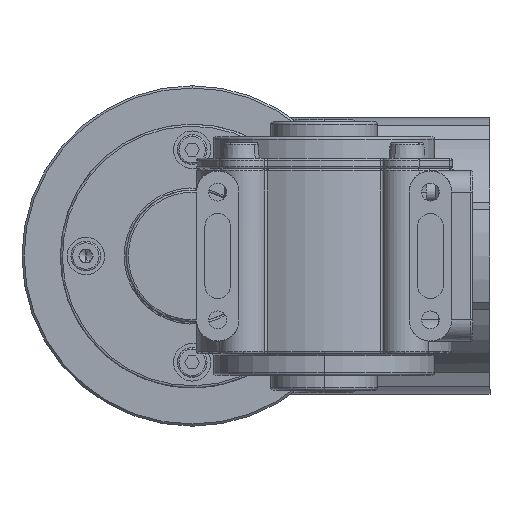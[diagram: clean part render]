
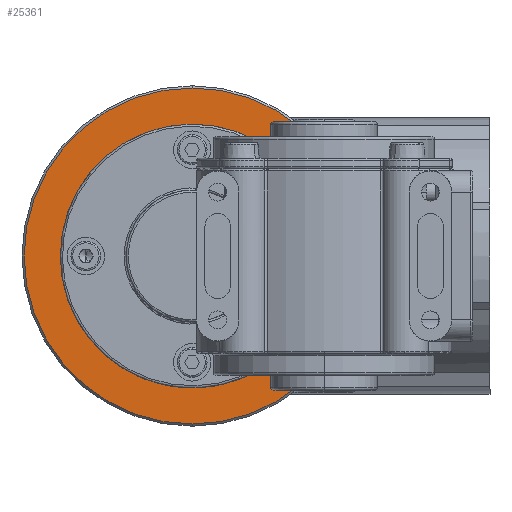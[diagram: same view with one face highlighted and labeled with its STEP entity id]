
A CAD part, left-side view. The second image highlights one B-rep face of the part: STEP entity #25361.
In plain terms, the highlighted planar face has unit normal (-1, 0, 0).
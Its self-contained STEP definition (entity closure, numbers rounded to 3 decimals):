
#336 = AXIS2_PLACEMENT_3D ( 'NONE', #16808, #18841, #21168 ) ;
#342 = ORIENTED_EDGE ( 'NONE', *, *, #8823, .F. ) ;
#380 = VERTEX_POINT ( 'NONE', #4295 ) ;
#806 = CARTESIAN_POINT ( 'NONE',  ( -61.394, 15.936, 2.025 ) ) ;
#1323 = CARTESIAN_POINT ( 'NONE',  ( -61.394, 40.936, -39.5 ) ) ;
#1378 = AXIS2_PLACEMENT_3D ( 'NONE', #17741, #6704, #8978 ) ;
#1446 = DIRECTION ( 'NONE',  ( 0., 0., 1. ) ) ;
#1607 = CARTESIAN_POINT ( 'NONE',  ( -61.394, 15.936, -2.025 ) ) ;
#1611 = AXIS2_PLACEMENT_3D ( 'NONE', #19721, #21477, #26356 ) ;
#1808 = ORIENTED_EDGE ( 'NONE', *, *, #3971, .F. ) ;
#2452 = DIRECTION ( 'NONE',  ( -1., 0., 0. ) ) ;
#2522 = EDGE_LOOP ( 'NONE', ( #16451, #24569 ) ) ;
#2869 = VERTEX_POINT ( 'NONE', #1323 ) ;
#3221 = CARTESIAN_POINT ( 'NONE',  ( -61.394, 65.936, 2.025 ) ) ;
#3236 = AXIS2_PLACEMENT_3D ( 'NONE', #16247, #17993, #13559 ) ;
#3445 = ORIENTED_EDGE ( 'NONE', *, *, #7917, .F. ) ;
#3882 = CIRCLE ( 'NONE', #1611, 2.025 ) ;
#3971 = EDGE_CURVE ( 'NONE', #18230, #22573, #17044, .T. ) ;
#4133 = DIRECTION ( 'NONE',  ( -1., 0., 0. ) ) ;
#4139 = CARTESIAN_POINT ( 'NONE',  ( -61.394, 40.936, -27.025 ) ) ;
#4295 = CARTESIAN_POINT ( 'NONE',  ( -61.394, 40.936, -22.975 ) ) ;
#4368 = FACE_BOUND ( 'NONE', #4907, .T. ) ;
#4437 = EDGE_CURVE ( 'NONE', #22573, #18230, #15249, .T. ) ;
#4438 = CIRCLE ( 'NONE', #336, 39.5 ) ;
#4801 = CARTESIAN_POINT ( 'NONE',  ( -61.394, 15.936, 0. ) ) ;
#4907 = EDGE_LOOP ( 'NONE', ( #15695, #13282 ) ) ;
#5017 = EDGE_LOOP ( 'NONE', ( #22268, #3445 ) ) ;
#5286 = AXIS2_PLACEMENT_3D ( 'NONE', #26960, #9098, #11127 ) ;
#5653 = CARTESIAN_POINT ( 'NONE',  ( -61.394, 80.936, 0. ) ) ;
#5711 = EDGE_LOOP ( 'NONE', ( #21552, #19441 ) ) ;
#6318 = CARTESIAN_POINT ( 'NONE',  ( -61.394, 40.936, 0. ) ) ;
#6358 = EDGE_CURVE ( 'NONE', #24466, #11965, #23605, .T. ) ;
#6361 = FACE_BOUND ( 'NONE', #5711, .T. ) ;
#6704 = DIRECTION ( 'NONE',  ( -1., 0., 0. ) ) ;
#6829 = CARTESIAN_POINT ( 'NONE',  ( -61.394, 40.936, 16. ) ) ;
#7079 = AXIS2_PLACEMENT_3D ( 'NONE', #4801, #9200, #17966 ) ;
#7224 = AXIS2_PLACEMENT_3D ( 'NONE', #6318, #14752, #27904 ) ;
#7777 = DIRECTION ( 'NONE',  ( -1., 0., 0. ) ) ;
#7825 = EDGE_LOOP ( 'NONE', ( #342, #12389 ) ) ;
#7917 = EDGE_CURVE ( 'NONE', #15271, #8420, #12267, .T. ) ;
#8260 = DIRECTION ( 'NONE',  ( 0., 0., 1. ) ) ;
#8275 = DIRECTION ( 'NONE',  ( -1., 0., 0. ) ) ;
#8420 = VERTEX_POINT ( 'NONE', #6829 ) ;
#8484 = FACE_BOUND ( 'NONE', #7825, .T. ) ;
#8631 = FACE_BOUND ( 'NONE', #5017, .T. ) ;
#8801 = CARTESIAN_POINT ( 'NONE',  ( -61.394, 40.936, 27.025 ) ) ;
#8823 = EDGE_CURVE ( 'NONE', #380, #23336, #3882, .T. ) ;
#8978 = DIRECTION ( 'NONE',  ( 0., 0., 1. ) ) ;
#9098 = DIRECTION ( 'NONE',  ( -1., 0., 0. ) ) ;
#9200 = DIRECTION ( 'NONE',  ( -1., 0., 0. ) ) ;
#9851 = EDGE_CURVE ( 'NONE', #10082, #11888, #18551, .T. ) ;
#10082 = VERTEX_POINT ( 'NONE', #1607 ) ;
#10671 = CARTESIAN_POINT ( 'NONE',  ( -61.394, 65.936, 0. ) ) ;
#11127 = DIRECTION ( 'NONE',  ( 0., 0., 1. ) ) ;
#11216 = ORIENTED_EDGE ( 'NONE', *, *, #4437, .F. ) ;
#11584 = EDGE_CURVE ( 'NONE', #23336, #380, #17205, .T. ) ;
#11722 = CIRCLE ( 'NONE', #26899, 2.025 ) ;
#11888 = VERTEX_POINT ( 'NONE', #806 ) ;
#11893 = CIRCLE ( 'NONE', #3236, 16. ) ;
#11965 = VERTEX_POINT ( 'NONE', #25899 ) ;
#12267 = CIRCLE ( 'NONE', #7224, 16. ) ;
#12389 = ORIENTED_EDGE ( 'NONE', *, *, #11584, .F. ) ;
#12401 = DIRECTION ( 'NONE',  ( 0., 0., 1. ) ) ;
#12749 = CIRCLE ( 'NONE', #18229, 39.5 ) ;
#13017 = EDGE_CURVE ( 'NONE', #2869, #28276, #12749, .T. ) ;
#13282 = ORIENTED_EDGE ( 'NONE', *, *, #9851, .F. ) ;
#13559 = DIRECTION ( 'NONE',  ( 0., 0., 1. ) ) ;
#14481 = EDGE_LOOP ( 'NONE', ( #1808, #11216 ) ) ;
#14752 = DIRECTION ( 'NONE',  ( -1., 0., 0. ) ) ;
#14910 = EDGE_CURVE ( 'NONE', #11965, #24466, #20154, .T. ) ;
#15249 = CIRCLE ( 'NONE', #22616, 2.025 ) ;
#15271 = VERTEX_POINT ( 'NONE', #26238 ) ;
#15695 = ORIENTED_EDGE ( 'NONE', *, *, #28397, .F. ) ;
#15920 = DIRECTION ( 'NONE',  ( -1., 0., 0. ) ) ;
#15949 = CARTESIAN_POINT ( 'NONE',  ( -61.394, 65.936, 0. ) ) ;
#15950 = EDGE_CURVE ( 'NONE', #8420, #15271, #11893, .T. ) ;
#16247 = CARTESIAN_POINT ( 'NONE',  ( -61.394, 40.936, 0. ) ) ;
#16451 = ORIENTED_EDGE ( 'NONE', *, *, #13017, .T. ) ;
#16808 = CARTESIAN_POINT ( 'NONE',  ( -61.394, 40.936, 0. ) ) ;
#16919 = CARTESIAN_POINT ( 'NONE',  ( -61.394, 65.936, -2.025 ) ) ;
#17044 = CIRCLE ( 'NONE', #21691, 2.025 ) ;
#17205 = CIRCLE ( 'NONE', #5286, 2.025 ) ;
#17318 = DIRECTION ( 'NONE',  ( 0., 0., 1. ) ) ;
#17600 = CARTESIAN_POINT ( 'NONE',  ( -61.394, 15.936, 0. ) ) ;
#17741 = CARTESIAN_POINT ( 'NONE',  ( -61.394, 40.936, 25. ) ) ;
#17966 = DIRECTION ( 'NONE',  ( 0., 0., 1. ) ) ;
#17993 = DIRECTION ( 'NONE',  ( -1., 0., 0. ) ) ;
#18229 = AXIS2_PLACEMENT_3D ( 'NONE', #26479, #15920, #24468 ) ;
#18230 = VERTEX_POINT ( 'NONE', #3221 ) ;
#18551 = CIRCLE ( 'NONE', #7079, 2.025 ) ;
#18841 = DIRECTION ( 'NONE',  ( -1., 0., 0. ) ) ;
#19441 = ORIENTED_EDGE ( 'NONE', *, *, #14910, .F. ) ;
#19721 = CARTESIAN_POINT ( 'NONE',  ( -61.394, 40.936, -25. ) ) ;
#20154 = CIRCLE ( 'NONE', #1378, 2.025 ) ;
#21168 = DIRECTION ( 'NONE',  ( 0., 0., 1. ) ) ;
#21477 = DIRECTION ( 'NONE',  ( -1., 0., 0. ) ) ;
#21552 = ORIENTED_EDGE ( 'NONE', *, *, #6358, .F. ) ;
#21691 = AXIS2_PLACEMENT_3D ( 'NONE', #10671, #4133, #8260 ) ;
#22268 = ORIENTED_EDGE ( 'NONE', *, *, #15950, .F. ) ;
#22573 = VERTEX_POINT ( 'NONE', #16919 ) ;
#22616 = AXIS2_PLACEMENT_3D ( 'NONE', #15949, #7777, #27062 ) ;
#23336 = VERTEX_POINT ( 'NONE', #4139 ) ;
#23484 = PLANE ( 'NONE',  #23590 ) ;
#23590 = AXIS2_PLACEMENT_3D ( 'NONE', #5653, #25254, #12401 ) ;
#23605 = CIRCLE ( 'NONE', #26838, 2.025 ) ;
#24466 = VERTEX_POINT ( 'NONE', #8801 ) ;
#24468 = DIRECTION ( 'NONE',  ( 0., 0., 1. ) ) ;
#24569 = ORIENTED_EDGE ( 'NONE', *, *, #26393, .T. ) ;
#25254 = DIRECTION ( 'NONE',  ( -1., 0., 0. ) ) ;
#25361 = ADVANCED_FACE ( 'NONE', ( #28229, #6361, #4368, #8484, #28080, #8631 ), #23484, .T. ) ;
#25899 = CARTESIAN_POINT ( 'NONE',  ( -61.394, 40.936, 22.975 ) ) ;
#26238 = CARTESIAN_POINT ( 'NONE',  ( -61.394, 40.936, -16. ) ) ;
#26356 = DIRECTION ( 'NONE',  ( 0., 0., 1. ) ) ;
#26393 = EDGE_CURVE ( 'NONE', #28276, #2869, #4438, .T. ) ;
#26479 = CARTESIAN_POINT ( 'NONE',  ( -61.394, 40.936, 0. ) ) ;
#26734 = CARTESIAN_POINT ( 'NONE',  ( -61.394, 40.936, 39.5 ) ) ;
#26838 = AXIS2_PLACEMENT_3D ( 'NONE', #28003, #8275, #1446 ) ;
#26899 = AXIS2_PLACEMENT_3D ( 'NONE', #17600, #2452, #17318 ) ;
#26960 = CARTESIAN_POINT ( 'NONE',  ( -61.394, 40.936, -25. ) ) ;
#27062 = DIRECTION ( 'NONE',  ( 0., 0., 1. ) ) ;
#27904 = DIRECTION ( 'NONE',  ( 0., 0., 1. ) ) ;
#28003 = CARTESIAN_POINT ( 'NONE',  ( -61.394, 40.936, 25. ) ) ;
#28080 = FACE_OUTER_BOUND ( 'NONE', #2522, .T. ) ;
#28229 = FACE_BOUND ( 'NONE', #14481, .T. ) ;
#28276 = VERTEX_POINT ( 'NONE', #26734 ) ;
#28397 = EDGE_CURVE ( 'NONE', #11888, #10082, #11722, .T. ) ;
